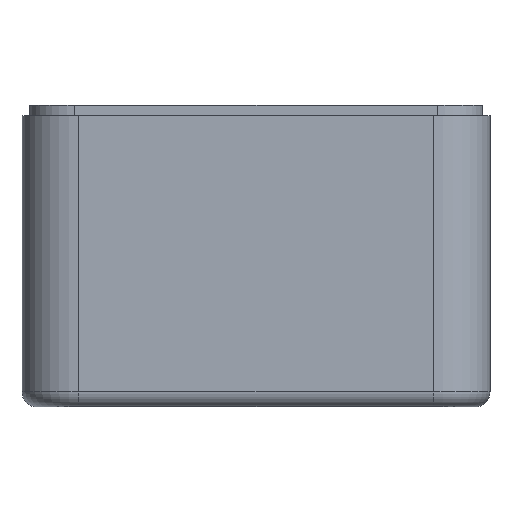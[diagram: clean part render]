
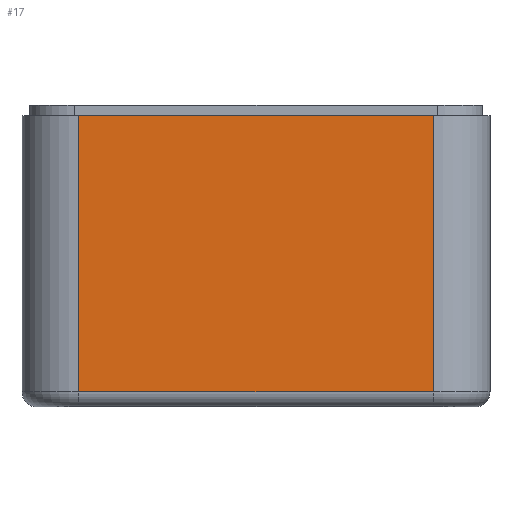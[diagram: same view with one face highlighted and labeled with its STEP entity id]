
A CAD part, left-side view. The second image highlights one B-rep face of the part: STEP entity #17.
In plain terms, the highlighted planar face has unit normal (-1, 0, 0).
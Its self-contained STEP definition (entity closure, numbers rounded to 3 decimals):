
#17 = ADVANCED_FACE('',(#18),#52,.F.);
#18 = FACE_BOUND('',#19,.F.);
#19 = EDGE_LOOP('',(#20,#30,#38,#46));
#20 = ORIENTED_EDGE('',*,*,#21,.F.);
#21 = EDGE_CURVE('',#22,#24,#26,.T.);
#22 = VERTEX_POINT('',#23);
#23 = CARTESIAN_POINT('',(-31.5,11.75,-4.));
#24 = VERTEX_POINT('',#25);
#25 = CARTESIAN_POINT('',(-31.5,-11.75,-4.));
#26 = LINE('',#27,#28);
#27 = CARTESIAN_POINT('',(-31.5,11.75,-4.));
#28 = VECTOR('',#29,1.);
#29 = DIRECTION('',(0.,-1.,0.));
#30 = ORIENTED_EDGE('',*,*,#31,.T.);
#31 = EDGE_CURVE('',#22,#32,#34,.T.);
#32 = VERTEX_POINT('',#33);
#33 = CARTESIAN_POINT('',(-31.5,11.75,14.3));
#34 = LINE('',#35,#36);
#35 = CARTESIAN_POINT('',(-31.5,11.75,-5.));
#36 = VECTOR('',#37,1.);
#37 = DIRECTION('',(0.,0.,1.));
#38 = ORIENTED_EDGE('',*,*,#39,.T.);
#39 = EDGE_CURVE('',#32,#40,#42,.T.);
#40 = VERTEX_POINT('',#41);
#41 = CARTESIAN_POINT('',(-31.5,-11.75,14.3));
#42 = LINE('',#43,#44);
#43 = CARTESIAN_POINT('',(-31.5,5.875,14.3));
#44 = VECTOR('',#45,1.);
#45 = DIRECTION('',(0.,-1.,0.));
#46 = ORIENTED_EDGE('',*,*,#47,.F.);
#47 = EDGE_CURVE('',#24,#40,#48,.T.);
#48 = LINE('',#49,#50);
#49 = CARTESIAN_POINT('',(-31.5,-11.75,-5.));
#50 = VECTOR('',#51,1.);
#51 = DIRECTION('',(0.,0.,1.));
#52 = PLANE('',#53);
#53 = AXIS2_PLACEMENT_3D('',#54,#55,#56);
#54 = CARTESIAN_POINT('',(-31.5,11.75,-5.));
#55 = DIRECTION('',(1.,0.,0.));
#56 = DIRECTION('',(0.,-1.,0.));
